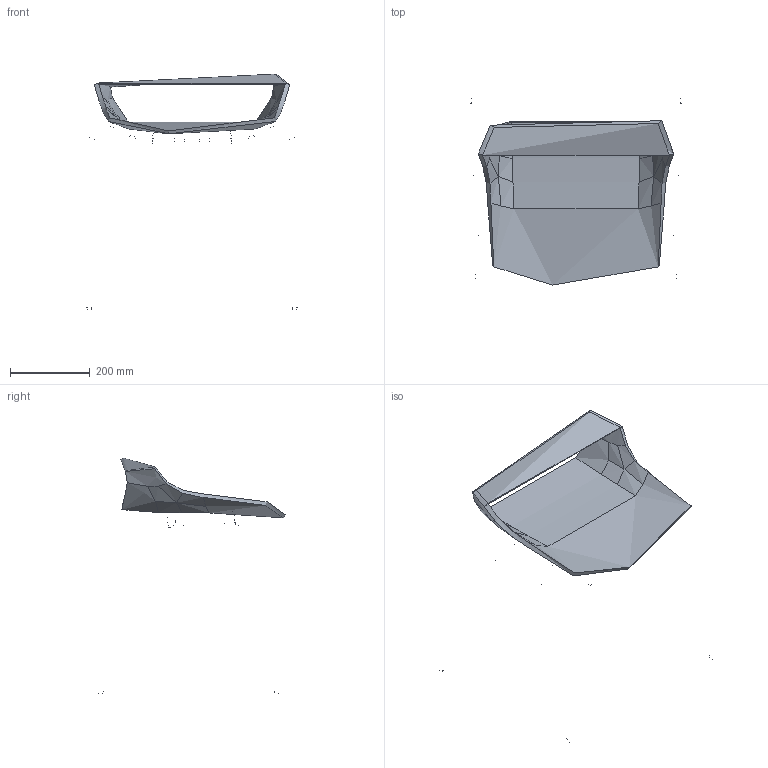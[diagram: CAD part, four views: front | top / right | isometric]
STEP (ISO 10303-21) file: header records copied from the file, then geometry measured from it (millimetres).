
FILE_DESCRIPTION(/* description */ (''),/* implementation_level */ '2;1');
FILE_NAME(/* name */ 'Lotus konf bezstoh',/* time_stamp */ '2024-03-11T11:34:34+01:00',/* author */ (''),/* organization */ (''),/* preprocessor_version */ 'ST-DEVELOPER v16.5',/* originating_system */ 'Rhino 7.36',/* authorisation */ '');
FILE_SCHEMA (('CONFIG_CONTROL_DESIGN'));
Length unit declared in the file: millimetre
Products named in the file (1): Document
Bounding box: 530.54 x 467.92 x 591.15 mm (x, y, z)
Volume: 3540760.7 mm3; surface area: 842818 mm2
Topology: 2 solids, 16 shells, 90 faces, 225 edges, 138 vertices
Faces by surface type: bspline 64, cylinder 26
Full cylindrical faces by diameter (mm): 14 x4, 16 x4, 18 x18
Entity records: 13622 total; most frequent: CARTESIAN_POINT 12216, ORIENTED_EDGE 408, EDGE_CURVE 214, VERTEX_POINT 136, B_SPLINE_CURVE_WITH_KNOTS 121, ADVANCED_FACE 90, FACE_OUTER_BOUND 90, EDGE_LOOP 90
